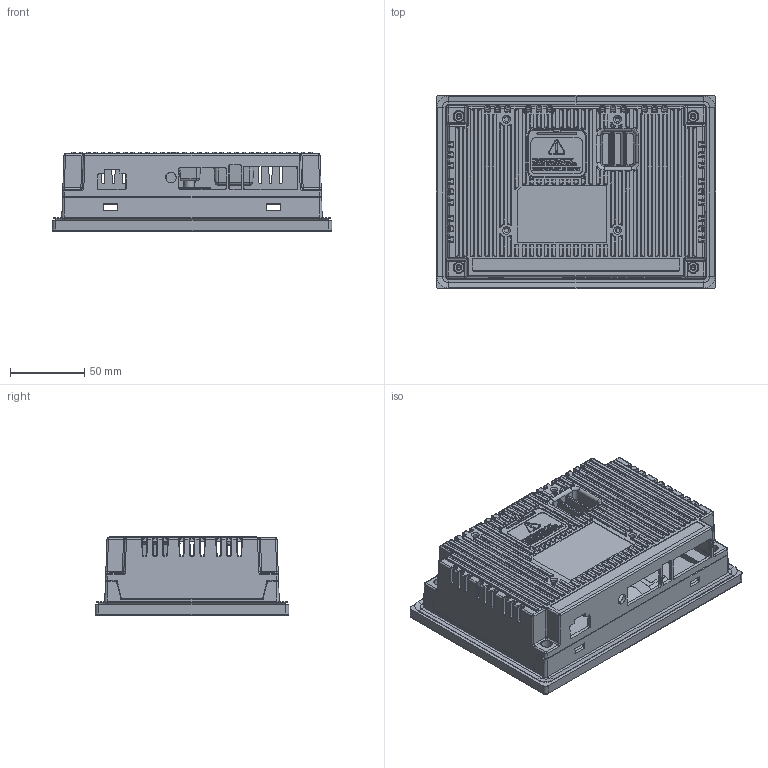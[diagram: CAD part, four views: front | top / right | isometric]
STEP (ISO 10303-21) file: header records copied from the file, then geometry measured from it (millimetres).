
FILE_DESCRIPTION (( 'STEP AP214' ), '1' );
FILE_NAME ('CM-nXT07-D.STEP', '2022-05-12T04:17:17', ( '梯辨撩' ), ( '' ), 'SwSTEP 2.0', 'SolidWorks 2021', '' );
FILE_SCHEMA (( 'AUTOMOTIVE_DESIGN' ));
Length unit declared in the file: millimetre
Products named in the file (1): CM-nXT07-D
Bounding box: 188.94 x 130.94 x 53.53 mm (x, y, z)
Volume: 309951.7 mm3; surface area: 315780.5 mm2
Topology: 16 solids, 16 shells, 5967 faces, 14617 edges, 8837 vertices
Faces by surface type: plane 1887, cylinder 1621, bspline 1570, sphere 354, cone 286, torus 249
Entity records: 279339 total; most frequent: CARTESIAN_POINT 86227, ORIENTED_EDGE 29164, DIRECTION 22949, EDGE_CURVE 14582, VERTEX_POINT 8837, AXIS2_PLACEMENT_3D 7881, LINE 7187, VECTOR 7187
